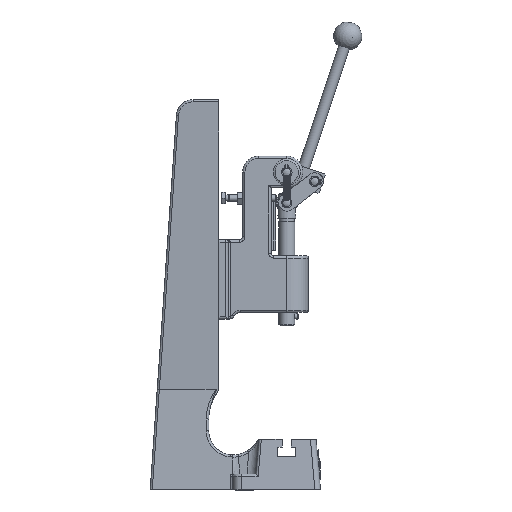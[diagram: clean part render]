
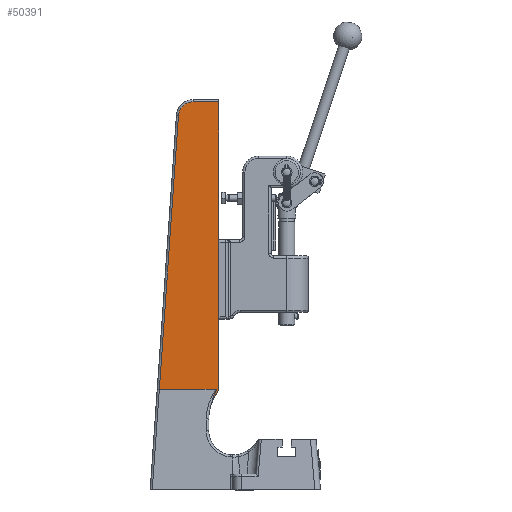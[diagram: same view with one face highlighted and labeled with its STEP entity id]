
A CAD part, left-side view. The second image highlights one B-rep face of the part: STEP entity #50391.
In plain terms, the highlighted planar face has unit normal (-0.998, 0.068, 0).
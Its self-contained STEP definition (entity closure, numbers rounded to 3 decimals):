
#1182=ELLIPSE('',#53227,13.03,13.);
#1186=ELLIPSE('',#53236,42.098,42.);
#1677=PLANE('',#53235);
#3200=FACE_OUTER_BOUND('',#5968,.T.);
#5968=EDGE_LOOP('',(#33209,#33210,#33211,#33212,#33213,#33214,#33215));
#9719=LINE('',#65520,#14308);
#9760=LINE('',#65846,#14349);
#9778=LINE('',#65990,#14367);
#9779=LINE('',#65991,#14368);
#14308=VECTOR('',#55817,254.413);
#14349=VECTOR('',#55954,50.331);
#14367=VECTOR('',#56024,22.868);
#14368=VECTOR('',#56025,242.5);
#18846=B_SPLINE_CURVE_WITH_KNOTS('',3,(#65993,#65994,#65995,#65996,#65997,
#65998,#65999,#66000,#66001,#66002,#66003,#66004,#66005,#66006,#66007,#66008,
#66009,#66010),.UNSPECIFIED.,.F.,.F.,(4,2,2,2,2,2,2,2,4),(0.,0.008,
0.015,0.021,0.031,0.052,
0.11,0.503,0.794),.UNSPECIFIED.);
#20859=VERTEX_POINT('',#65516);
#20861=VERTEX_POINT('',#65519);
#20925=VERTEX_POINT('',#65843);
#20926=VERTEX_POINT('',#65845);
#20942=VERTEX_POINT('',#65936);
#20943=VERTEX_POINT('',#65938);
#20949=VERTEX_POINT('',#65992);
#25715=EDGE_CURVE('',#20861,#20859,#9719,.T.);
#25800=EDGE_CURVE('',#20925,#20926,#9760,.T.);
#25826=EDGE_CURVE('',#20942,#20943,#1182,.T.);
#25835=EDGE_CURVE('',#20943,#20859,#9778,.T.);
#25836=EDGE_CURVE('',#20926,#20942,#9779,.T.);
#25837=EDGE_CURVE('',#20949,#20925,#18846,.F.);
#25838=EDGE_CURVE('',#20949,#20861,#1186,.T.);
#33209=ORIENTED_EDGE('',*,*,#25715,.T.);
#33210=ORIENTED_EDGE('',*,*,#25835,.F.);
#33211=ORIENTED_EDGE('',*,*,#25826,.F.);
#33212=ORIENTED_EDGE('',*,*,#25836,.F.);
#33213=ORIENTED_EDGE('',*,*,#25800,.F.);
#33214=ORIENTED_EDGE('',*,*,#25837,.F.);
#33215=ORIENTED_EDGE('',*,*,#25838,.T.);
#50391=ADVANCED_FACE('',(#3200),#1677,.T.);
#53227=AXIS2_PLACEMENT_3D('',#65939,#56004,#56005);
#53235=AXIS2_PLACEMENT_3D('',#65989,#56022,#56023);
#53236=AXIS2_PLACEMENT_3D('',#66011,#56026,#56027);
#55817=DIRECTION('',(0.,0.,1.));
#55954=DIRECTION('',(0.068,0.998,0.));
#56004=DIRECTION('center_axis',(0.998,-0.068,0.));
#56005=DIRECTION('ref_axis',(0.068,0.998,0.));
#56022=DIRECTION('center_axis',(-0.998,0.068,0.));
#56023=DIRECTION('ref_axis',(-0.068,-0.998,0.));
#56024=DIRECTION('',(-0.068,-0.998,0.));
#56025=DIRECTION('',(-0.005,-0.07,0.998));
#56026=DIRECTION('center_axis',(0.998,-0.068,0.));
#56027=DIRECTION('ref_axis',(-0.068,-0.998,0.));
#65516=CARTESIAN_POINT('',(-25.178,90.,346.));
#65519=CARTESIAN_POINT('',(-25.178,90.,91.587));
#65520=CARTESIAN_POINT('',(-25.178,90.,220.));
#65843=CARTESIAN_POINT('',(-25.008,92.485,92.));
#65845=CARTESIAN_POINT('',(-21.569,142.699,92.));
#65846=CARTESIAN_POINT('',(-21.,151.,92.));
#65936=CARTESIAN_POINT('',(-22.727,125.783,333.907));
#65938=CARTESIAN_POINT('',(-23.615,112.814,346.));
#65939=CARTESIAN_POINT('Origin',(-23.615,112.814,333.));
#65989=CARTESIAN_POINT('Origin',(-21.,151.,92.));
#65990=CARTESIAN_POINT('',(-22.247,132.795,346.));
#65991=CARTESIAN_POINT('',(-21.347,145.939,45.666));
#65992=CARTESIAN_POINT('',(-24.576,98.788,69.817));
#65993=CARTESIAN_POINT('Ctrl Pts',(-25.008,92.485,92.));
#65994=CARTESIAN_POINT('Ctrl Pts',(-25.01,92.458,92.));
#65995=CARTESIAN_POINT('Ctrl Pts',(-25.012,92.43,91.996));
#65996=CARTESIAN_POINT('Ctrl Pts',(-25.015,92.384,91.978));
#65997=CARTESIAN_POINT('Ctrl Pts',(-25.016,92.366,91.966));
#65998=CARTESIAN_POINT('Ctrl Pts',(-25.018,92.335,91.936));
#65999=CARTESIAN_POINT('Ctrl Pts',(-25.019,92.323,91.917));
#66000=CARTESIAN_POINT('Ctrl Pts',(-25.021,92.299,91.867));
#66001=CARTESIAN_POINT('Ctrl Pts',(-25.021,92.291,91.834));
#66002=CARTESIAN_POINT('Ctrl Pts',(-25.022,92.278,91.733));
#66003=CARTESIAN_POINT('Ctrl Pts',(-25.022,92.283,91.655));
#66004=CARTESIAN_POINT('Ctrl Pts',(-25.019,92.324,91.359));
#66005=CARTESIAN_POINT('Ctrl Pts',(-25.013,92.411,91.082));
#66006=CARTESIAN_POINT('Ctrl Pts',(-24.963,93.138,89.061));
#66007=CARTESIAN_POINT('Ctrl Pts',(-24.839,94.957,85.631));
#66008=CARTESIAN_POINT('Ctrl Pts',(-24.654,97.654,77.169));
#66009=CARTESIAN_POINT('Ctrl Pts',(-24.602,98.412,73.549));
#66010=CARTESIAN_POINT('Ctrl Pts',(-24.576,98.788,69.817));
#66011=CARTESIAN_POINT('Origin',(-27.438,57.,65.606));
